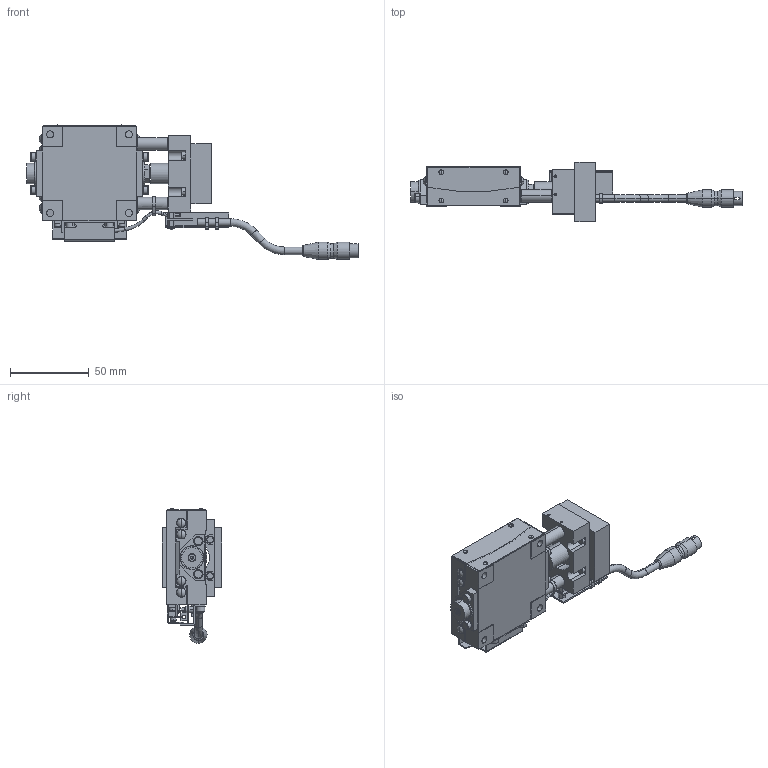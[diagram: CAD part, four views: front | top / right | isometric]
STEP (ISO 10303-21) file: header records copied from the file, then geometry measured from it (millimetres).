
FILE_DESCRIPTION (( 'STEP AP203' ), '1' );
FILE_NAME ('KGB06125TV-LS38.STEP', '2024-03-25T09:22:35', ( '' ), ( '' ), 'SwSTEP 2.0', 'SolidWorks 2017', '' );
FILE_SCHEMA (( 'CONFIG_CONTROL_DESIGN' ));
Length unit declared in the file: millimetre
Products named in the file (6): 60-T-6-L; KGB06125TV-LS38; KGB-BASE-06125-L; 60-S38_C; KGB-60-S38_CADENAS; KGB-TOP-06125-L
Assembly tree (5 placements, depth 2):
  KGB06125TV-LS38
    KGB-BASE-06125-L
    KGB-TOP-06125-L
    KGB-60-S38_CADENAS
    60-T-6-L
    60-S38_C
Bounding box: 211.2 x 38 x 85.9 mm (x, y, z)
Volume: 129333.8 mm3; surface area: 52122.9 mm2
Topology: 5 solids, 39 shells, 991 faces, 2361 edges, 1509 vertices
Faces by surface type: cylinder 405, plane 398, cone 98, torus 50, sphere 32, bspline 8
Entity records: 30161 total; most frequent: CARTESIAN_POINT 5721, DIRECTION 5353, ORIENTED_EDGE 4650, EDGE_CURVE 2325, AXIS2_PLACEMENT_3D 2081, VERTEX_POINT 1509, VECTOR 1191, LINE 1191
